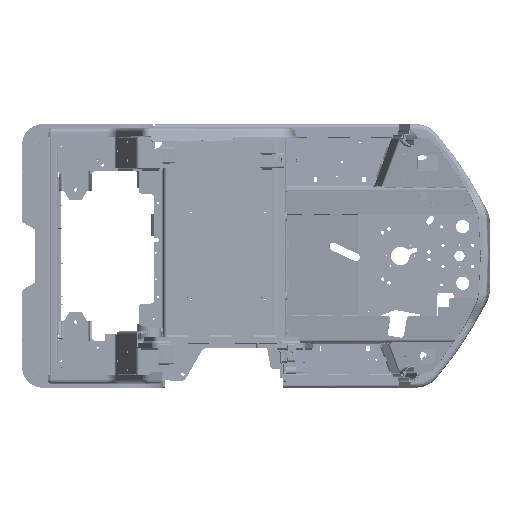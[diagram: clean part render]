
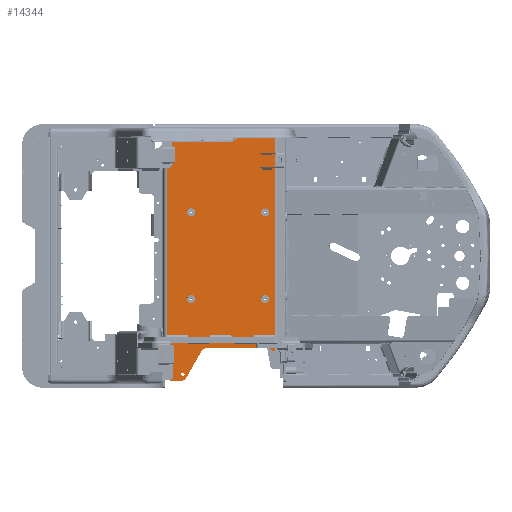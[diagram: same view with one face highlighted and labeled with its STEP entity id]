
A CAD part, top view. The second image highlights one B-rep face of the part: STEP entity #14344.
In plain terms, the highlighted planar face has unit normal (0.035, 0, 0.999).
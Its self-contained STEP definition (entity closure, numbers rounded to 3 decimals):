
#6510=FACE_BOUND('',#31433,.T.);
#6511=FACE_BOUND('',#31434,.T.);
#6512=FACE_BOUND('',#31435,.T.);
#6513=FACE_BOUND('',#31436,.T.);
#6514=FACE_BOUND('',#31437,.T.);
#6515=FACE_BOUND('',#31438,.T.);
#14344=ADVANCED_FACE('',(#6510,#6511,#6512,#6513,#6514,#6515),#19850,.F.);
#19850=PLANE('',#126580);
#31433=EDGE_LOOP('',(#49782));
#31434=EDGE_LOOP('',(#49783));
#31435=EDGE_LOOP('',(#49784));
#31436=EDGE_LOOP('',(#49785));
#31437=EDGE_LOOP('',(#49786));
#31438=EDGE_LOOP('',(#49787,#49788,#49789,#49790,#49791,#49792,#49793,#49794,
#49795,#49796,#49797,#49798,#49799,#49800,#49801,#49802));
#49782=ORIENTED_EDGE('',*,*,#86917,.F.);
#49783=ORIENTED_EDGE('',*,*,#86918,.F.);
#49784=ORIENTED_EDGE('',*,*,#86919,.F.);
#49785=ORIENTED_EDGE('',*,*,#86920,.F.);
#49786=ORIENTED_EDGE('',*,*,#86921,.F.);
#49787=ORIENTED_EDGE('',*,*,#86922,.F.);
#49788=ORIENTED_EDGE('',*,*,#86923,.T.);
#49789=ORIENTED_EDGE('',*,*,#86924,.T.);
#49790=ORIENTED_EDGE('',*,*,#86925,.T.);
#49791=ORIENTED_EDGE('',*,*,#86862,.T.);
#49792=ORIENTED_EDGE('',*,*,#86870,.F.);
#49793=ORIENTED_EDGE('',*,*,#86926,.T.);
#49794=ORIENTED_EDGE('',*,*,#86927,.F.);
#49795=ORIENTED_EDGE('',*,*,#86928,.F.);
#49796=ORIENTED_EDGE('',*,*,#86929,.T.);
#49797=ORIENTED_EDGE('',*,*,#86856,.F.);
#49798=ORIENTED_EDGE('',*,*,#86930,.T.);
#49799=ORIENTED_EDGE('',*,*,#86931,.F.);
#49800=ORIENTED_EDGE('',*,*,#86932,.T.);
#49801=ORIENTED_EDGE('',*,*,#86933,.F.);
#49802=ORIENTED_EDGE('',*,*,#86934,.T.);
#73673=VERTEX_POINT('',#203924);
#73674=VERTEX_POINT('',#203926);
#73679=VERTEX_POINT('',#203939);
#73680=VERTEX_POINT('',#203940);
#73687=VERTEX_POINT('',#203955);
#73731=VERTEX_POINT('',#204050);
#73732=VERTEX_POINT('',#204052);
#73733=VERTEX_POINT('',#204054);
#73734=VERTEX_POINT('',#204056);
#73735=VERTEX_POINT('',#204058);
#73736=VERTEX_POINT('',#204060);
#73737=VERTEX_POINT('',#204061);
#73738=VERTEX_POINT('',#204063);
#73739=VERTEX_POINT('',#204065);
#73740=VERTEX_POINT('',#204068);
#73741=VERTEX_POINT('',#204070);
#73742=VERTEX_POINT('',#204072);
#73743=VERTEX_POINT('',#204075);
#73744=VERTEX_POINT('',#204077);
#73745=VERTEX_POINT('',#204079);
#73746=VERTEX_POINT('',#204081);
#86856=EDGE_CURVE('',#73673,#73674,#107292,.T.);
#86862=EDGE_CURVE('',#73679,#73680,#98312,.T.);
#86870=EDGE_CURVE('',#73687,#73680,#107301,.T.);
#86917=EDGE_CURVE('',#73731,#73731,#98338,.T.);
#86918=EDGE_CURVE('',#73732,#73732,#98339,.T.);
#86919=EDGE_CURVE('',#73733,#73733,#98340,.T.);
#86920=EDGE_CURVE('',#73734,#73734,#98341,.T.);
#86921=EDGE_CURVE('',#73735,#73735,#98342,.T.);
#86922=EDGE_CURVE('',#73736,#73737,#107325,.T.);
#86923=EDGE_CURVE('',#73736,#73738,#98343,.T.);
#86924=EDGE_CURVE('',#73738,#73739,#107326,.T.);
#86925=EDGE_CURVE('',#73739,#73679,#107327,.T.);
#86926=EDGE_CURVE('',#73687,#73740,#107328,.T.);
#86927=EDGE_CURVE('',#73741,#73740,#107329,.T.);
#86928=EDGE_CURVE('',#73742,#73741,#107330,.T.);
#86929=EDGE_CURVE('',#73742,#73674,#98344,.T.);
#86930=EDGE_CURVE('',#73673,#73743,#98345,.T.);
#86931=EDGE_CURVE('',#73744,#73743,#107331,.T.);
#86932=EDGE_CURVE('',#73744,#73745,#98346,.T.);
#86933=EDGE_CURVE('',#73746,#73745,#107332,.T.);
#86934=EDGE_CURVE('',#73746,#73737,#98347,.T.);
#98312=CIRCLE('',#126540,5.);
#98338=CIRCLE('',#126570,6.5);
#98339=CIRCLE('',#126571,10.);
#98340=CIRCLE('',#126572,10.);
#98341=CIRCLE('',#126573,10.);
#98342=CIRCLE('',#126574,10.);
#98343=CIRCLE('',#126575,10.);
#98344=CIRCLE('',#126576,15.);
#98345=CIRCLE('',#126577,30.);
#98346=CIRCLE('',#126578,30.);
#98347=CIRCLE('',#126579,10.);
#107292=LINE('',#203925,#116649);
#107301=LINE('',#203956,#116658);
#107325=LINE('',#204059,#116682);
#107326=LINE('',#204064,#116683);
#107327=LINE('',#204066,#116684);
#107328=LINE('',#204067,#116685);
#107329=LINE('',#204069,#116686);
#107330=LINE('',#204071,#116687);
#107331=LINE('',#204076,#116688);
#107332=LINE('',#204080,#116689);
#116649=VECTOR('',#145559,1.);
#116658=VECTOR('',#145584,1.);
#116682=VECTOR('',#145670,1.);
#116683=VECTOR('',#145673,1.);
#116684=VECTOR('',#145674,1.);
#116685=VECTOR('',#145675,1.);
#116686=VECTOR('',#145676,1.);
#116687=VECTOR('',#145677,1.);
#116688=VECTOR('',#145682,1.);
#116689=VECTOR('',#145685,1.);
#126540=AXIS2_PLACEMENT_3D('',#203938,#145571,#145572);
#126570=AXIS2_PLACEMENT_3D('',#204049,#145660,#145661);
#126571=AXIS2_PLACEMENT_3D('',#204051,#145662,#145663);
#126572=AXIS2_PLACEMENT_3D('',#204053,#145664,#145665);
#126573=AXIS2_PLACEMENT_3D('',#204055,#145666,#145667);
#126574=AXIS2_PLACEMENT_3D('',#204057,#145668,#145669);
#126575=AXIS2_PLACEMENT_3D('',#204062,#145671,#145672);
#126576=AXIS2_PLACEMENT_3D('',#204073,#145678,#145679);
#126577=AXIS2_PLACEMENT_3D('',#204074,#145680,#145681);
#126578=AXIS2_PLACEMENT_3D('',#204078,#145683,#145684);
#126579=AXIS2_PLACEMENT_3D('',#204082,#145686,#145687);
#126580=AXIS2_PLACEMENT_3D('',#204083,#145688,#145689);
#145559=DIRECTION('',(-0.999,0.,0.035));
#145571=DIRECTION('',(0.035,0.,0.999));
#145572=DIRECTION('',(0.999,0.,-0.035));
#145584=DIRECTION('',(0.999,0.,-0.035));
#145660=DIRECTION('',(0.035,0.,0.999));
#145661=DIRECTION('',(-0.999,0.,0.035));
#145662=DIRECTION('',(0.035,0.,0.999));
#145663=DIRECTION('',(0.,-1.,0.));
#145664=DIRECTION('',(0.035,0.,0.999));
#145665=DIRECTION('',(0.,-1.,0.));
#145666=DIRECTION('',(0.035,0.,0.999));
#145667=DIRECTION('',(0.,-1.,0.));
#145668=DIRECTION('',(0.035,0.,0.999));
#145669=DIRECTION('',(0.,-1.,0.));
#145670=DIRECTION('',(-0.707,0.707,0.025));
#145671=DIRECTION('',(0.035,0.,0.999));
#145672=DIRECTION('',(0.999,0.,-0.035));
#145673=DIRECTION('',(0.999,0.,-0.035));
#145674=DIRECTION('',(0.,1.,0.));
#145675=DIRECTION('',(0.,-1.,0.));
#145676=DIRECTION('',(-0.999,0.,0.035));
#145677=DIRECTION('',(0.,1.,0.));
#145678=DIRECTION('',(0.035,0.,0.999));
#145679=DIRECTION('',(0.999,0.,-0.035));
#145680=DIRECTION('',(0.035,0.,0.999));
#145681=DIRECTION('',(0.999,0.,-0.035));
#145682=DIRECTION('',(-0.5,-0.866,0.017));
#145683=DIRECTION('',(-0.035,0.,-0.999));
#145684=DIRECTION('',(0.999,0.,-0.035));
#145685=DIRECTION('',(-0.999,0.,0.035));
#145686=DIRECTION('',(-0.035,0.,-0.999));
#145687=DIRECTION('',(0.999,0.,-0.035));
#145688=DIRECTION('',(-0.035,0.,-0.999));
#145689=DIRECTION('',(0.999,0.,-0.035));
#203924=CARTESIAN_POINT('',(-889.025,-474.,622.798));
#203925=CARTESIAN_POINT('',(-527.724,-474.,610.181));
#203926=CARTESIAN_POINT('',(-918.44,-474.,623.825));
#203938=CARTESIAN_POINT('',(-530.683,472.,610.284));
#203939=CARTESIAN_POINT('',(-527.724,476.029,610.181));
#203940=CARTESIAN_POINT('',(-530.683,477.,610.284));
#203955=CARTESIAN_POINT('',(-938.581,477.,624.528));
#203956=CARTESIAN_POINT('',(-527.724,477.,610.181));
#204049=CARTESIAN_POINT('',(-876.466,-448.,622.359));
#204050=CARTESIAN_POINT('',(-882.962,-448.,622.586));
#204051=CARTESIAN_POINT('',(-846.084,-164.,621.298));
#204052=CARTESIAN_POINT('',(-846.084,-174.,621.298));
#204053=CARTESIAN_POINT('',(-846.084,164.,621.298));
#204054=CARTESIAN_POINT('',(-846.084,154.,621.298));
#204055=CARTESIAN_POINT('',(-566.255,-164.,611.526));
#204056=CARTESIAN_POINT('',(-566.255,-174.,611.526));
#204057=CARTESIAN_POINT('',(-566.255,164.,611.526));
#204058=CARTESIAN_POINT('',(-566.255,154.,611.526));
#204059=CARTESIAN_POINT('',(-467.988,-430.227,608.095));
#204060=CARTESIAN_POINT('',(-542.098,-356.071,610.683));
#204061=CARTESIAN_POINT('',(-547.238,-350.929,610.862));
#204062=CARTESIAN_POINT('',(-535.032,-349.,610.436));
#204063=CARTESIAN_POINT('',(-535.032,-359.,610.436));
#204064=CARTESIAN_POINT('',(-527.724,-359.,610.181));
#204065=CARTESIAN_POINT('',(-527.724,-359.,610.181));
#204066=CARTESIAN_POINT('',(-527.724,-490.,610.181));
#204067=CARTESIAN_POINT('',(-938.581,-334.,624.528));
#204068=CARTESIAN_POINT('',(-938.581,-327.,624.528));
#204069=CARTESIAN_POINT('',(-527.724,-327.,610.181));
#204070=CARTESIAN_POINT('',(-933.431,-327.,624.348));
#204071=CARTESIAN_POINT('',(-933.431,-490.,624.348));
#204072=CARTESIAN_POINT('',(-933.431,-459.,624.348));
#204073=CARTESIAN_POINT('',(-918.44,-459.,623.825));
#204074=CARTESIAN_POINT('',(-889.025,-444.,622.798));
#204075=CARTESIAN_POINT('',(-863.06,-459.,621.891));
#204076=CARTESIAN_POINT('',(-792.641,-336.957,619.432));
#204077=CARTESIAN_POINT('',(-807.668,-363.,619.957));
#204078=CARTESIAN_POINT('',(-781.703,-378.,619.05));
#204079=CARTESIAN_POINT('',(-781.703,-348.,619.05));
#204080=CARTESIAN_POINT('',(-527.724,-348.,610.181));
#204081=CARTESIAN_POINT('',(-554.304,-348.,611.109));
#204082=CARTESIAN_POINT('',(-554.304,-358.,611.109));
#204083=CARTESIAN_POINT('',(-527.724,-490.,610.181));
